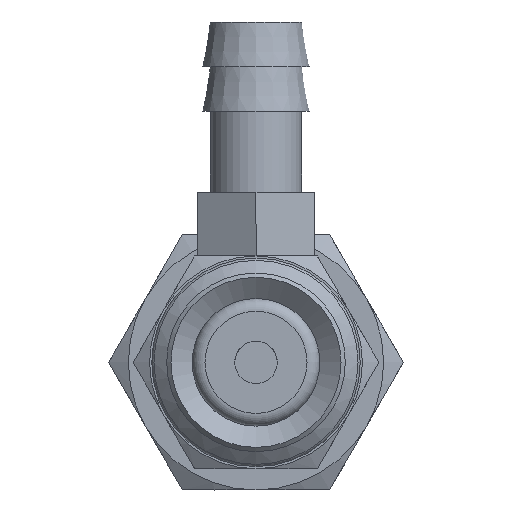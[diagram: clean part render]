
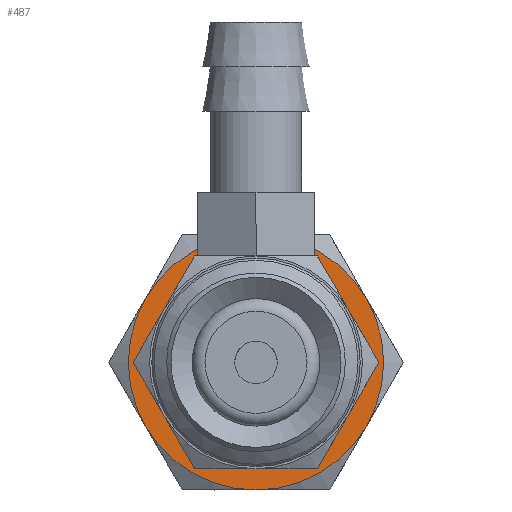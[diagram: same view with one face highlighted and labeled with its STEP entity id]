
A CAD part, front view. The second image highlights one B-rep face of the part: STEP entity #487.
In plain terms, the highlighted planar face has unit normal (0, -1, 0) as drawn and (-1, 0, 0) by its records, which use the part's own axes.
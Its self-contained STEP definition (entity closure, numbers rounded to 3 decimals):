
#487=ADVANCED_FACE('',(#660,#661),#662,.F.);
#660=FACE_BOUND('',#986,.T.);
#661=FACE_OUTER_BOUND('',#987,.T.);
#662=PLANE('',#988);
#986=EDGE_LOOP('',(#1458));
#987=EDGE_LOOP('',(#1459,#1460,#1461,#1462,#1463,#1464));
#988=AXIS2_PLACEMENT_3D('',#1465,#1466,#1467);
#1458=ORIENTED_EDGE('',*,*,#2166,.T.);
#1459=ORIENTED_EDGE('',*,*,#2141,.F.);
#1460=ORIENTED_EDGE('',*,*,#2142,.F.);
#1461=ORIENTED_EDGE('',*,*,#2167,.F.);
#1462=ORIENTED_EDGE('',*,*,#2124,.F.);
#1463=ORIENTED_EDGE('',*,*,#2169,.F.);
#1464=ORIENTED_EDGE('',*,*,#2168,.F.);
#1465=CARTESIAN_POINT('',(0.,0.0,0.0));
#1466=DIRECTION('',(1.0,0.0,0.0));
#1467=DIRECTION('',(0.0,1.0,0.0));
#2124=EDGE_CURVE('',#2375,#2376,#2377,.T.);
#2141=EDGE_CURVE('',#2405,#2402,#2407,.T.);
#2142=EDGE_CURVE('',#2408,#2405,#2409,.T.);
#2166=EDGE_CURVE('',#2444,#2444,#2445,.T.);
#2167=EDGE_CURVE('',#2376,#2408,#2446,.T.);
#2168=EDGE_CURVE('',#2402,#2417,#2447,.T.);
#2169=EDGE_CURVE('',#2417,#2375,#2448,.T.);
#2375=VERTEX_POINT('',#2795);
#2376=VERTEX_POINT('',#2796);
#2377=CIRCLE('',#2797,6.0);
#2402=VERTEX_POINT('',#2906);
#2405=VERTEX_POINT('',#2929);
#2407=CIRCLE('',#2941,6.0);
#2408=VERTEX_POINT('',#2942);
#2409=CIRCLE('',#2943,6.0);
#2417=VERTEX_POINT('',#2982);
#2444=VERTEX_POINT('',#3110);
#2445=CIRCLE('',#3111,4.0);
#2446=CIRCLE('',#3112,6.0);
#2447=CIRCLE('',#3113,6.0);
#2448=CIRCLE('',#3114,6.0);
#2795=CARTESIAN_POINT('',(0.,-5.196,3.0));
#2796=CARTESIAN_POINT('',(0.,-5.196,-3.0));
#2797=AXIS2_PLACEMENT_3D('',#3613,#3614,#3615);
#2906=CARTESIAN_POINT('',(0.,5.196,3.0));
#2929=CARTESIAN_POINT('',(0.,5.196,-3.0));
#2941=AXIS2_PLACEMENT_3D('',#3623,#3624,#3625);
#2942=CARTESIAN_POINT('',(0.,0.0,-6.0));
#2943=AXIS2_PLACEMENT_3D('',#3626,#3627,#3628);
#2982=CARTESIAN_POINT('',(0.,0.0,6.0));
#3110=CARTESIAN_POINT('',(0.,0.0,-4.0));
#3111=AXIS2_PLACEMENT_3D('',#3655,#3656,#3657);
#3112=AXIS2_PLACEMENT_3D('',#3658,#3659,#3660);
#3113=AXIS2_PLACEMENT_3D('',#3661,#3662,#3663);
#3114=AXIS2_PLACEMENT_3D('',#3664,#3665,#3666);
#3613=CARTESIAN_POINT('',(0.,0.0,0.0));
#3614=DIRECTION('',(1.0,0.0,0.0));
#3615=DIRECTION('',(0.0,0.0,-1.0));
#3623=CARTESIAN_POINT('',(0.,0.0,0.0));
#3624=DIRECTION('',(1.0,0.0,0.0));
#3625=DIRECTION('',(0.0,0.0,-1.0));
#3626=CARTESIAN_POINT('',(0.,0.0,0.0));
#3627=DIRECTION('',(1.0,0.0,0.0));
#3628=DIRECTION('',(0.0,0.0,-1.0));
#3655=CARTESIAN_POINT('',(0.,0.0,0.0));
#3656=DIRECTION('',(1.0,0.0,0.0));
#3657=DIRECTION('',(0.0,0.0,-1.0));
#3658=CARTESIAN_POINT('',(0.,0.0,0.0));
#3659=DIRECTION('',(1.0,0.0,0.0));
#3660=DIRECTION('',(0.0,0.0,-1.0));
#3661=CARTESIAN_POINT('',(0.,0.0,0.0));
#3662=DIRECTION('',(1.0,0.0,0.0));
#3663=DIRECTION('',(0.0,0.0,-1.0));
#3664=CARTESIAN_POINT('',(0.,0.0,0.0));
#3665=DIRECTION('',(1.0,0.0,0.0));
#3666=DIRECTION('',(0.0,0.0,-1.0));
